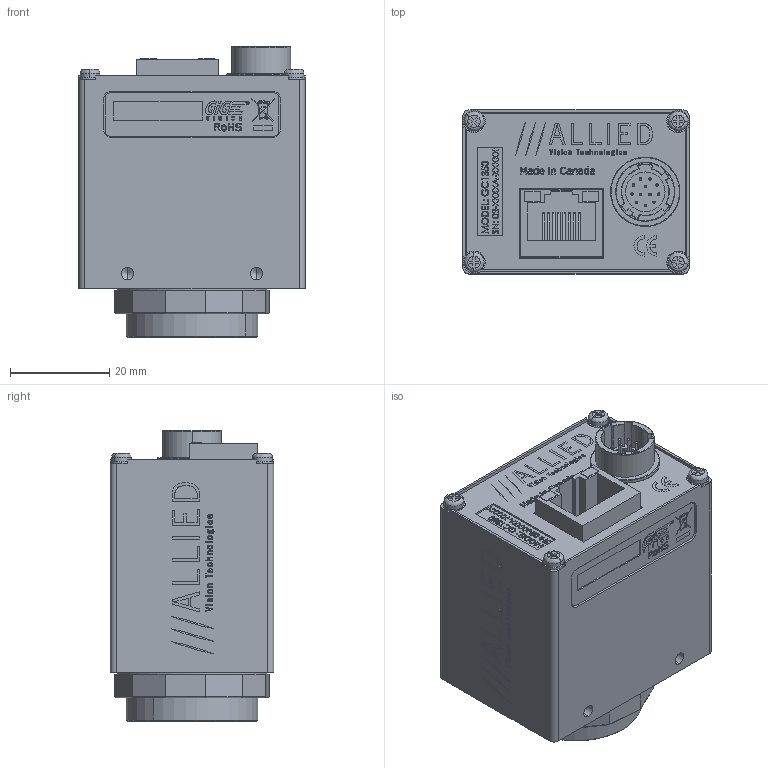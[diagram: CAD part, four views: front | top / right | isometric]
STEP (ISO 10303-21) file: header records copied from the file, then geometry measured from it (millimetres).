
FILE_DESCRIPTION (( 'STEP AP214' ), '1' );
FILE_NAME ('GC1350.STEP', '2013-07-31T18:49:42', ( '' ), ( '' ), 'SwSTEP 2.0', 'SolidWorks 2013', '' );
FILE_SCHEMA (( 'AUTOMOTIVE_DESIGN' ));
Length unit declared in the file: millimetre
Products named in the file (19): 140023-SCREW SKT CAP M2x10 SS; 110003AC-CV CMOUNT RING; GC1350; 110042C GC-CCD FRONT_Finished with logo; 200047A-A GC INTERFACE PCB ASSY; 260034-HIROSE HR10A-10R-12PB; 260033-AMPHENOL RJHS-3381; 110031A-B EC-CCD LOCKING RING; 220052-SONY ICX205AL; Sony ICX205 BODY; Sony ICX205 WINDOW; 110043A GC BACK PLATE; 110043A GC BACK PLATE - WO HW; 740035A-A GC1350M LABEL PRINT; 110045B-EC-CCD DUST SHIELD GASKET; 740032B-GC MAIN LABEL; 740123A-GC MAC LABEL; 140013-washer spring lock M2; 140017-SCREW PAN M2x4 SS
Assembly tree (27 placements, depth 3):
  GC1350
    110003AC-CV CMOUNT RING
    140023-SCREW SKT CAP M2x10 SS  x2
    140017-SCREW PAN M2x4 SS  x4
    140013-washer spring lock M2  x6
    740123A-GC MAC LABEL
    740032B-GC MAIN LABEL
    110045B-EC-CCD DUST SHIELD GASKET
    740035A-A GC1350M LABEL PRINT
    110043A GC BACK PLATE
      110043A GC BACK PLATE - WO HW
    220052-SONY ICX205AL
      Sony ICX205 WINDOW
      Sony ICX205 BODY
    110031A-B EC-CCD LOCKING RING
    200047A-A GC INTERFACE PCB ASSY
      260033-AMPHENOL RJHS-3381
    110042C GC-CCD FRONT_Finished with logo
    260034-HIROSE HR10A-10R-12PB
Bounding box: 45.72 x 33.02 x 58.62 mm (x, y, z)
Volume: 22469.5 mm3; surface area: 32152.1 mm2
Topology: 24 solids, 24 shells, 3224 faces, 8479 edges, 5512 vertices
Faces by surface type: plane 1856, bspline 892, cylinder 296, cone 180
Entity records: 160652 total; most frequent: CARTESIAN_POINT 55418, ORIENTED_EDGE 16134, DIRECTION 11505, EDGE_CURVE 8067, VECTOR 5609, LINE 5609, VERTEX_POINT 5294, EDGE_LOOP 3415
